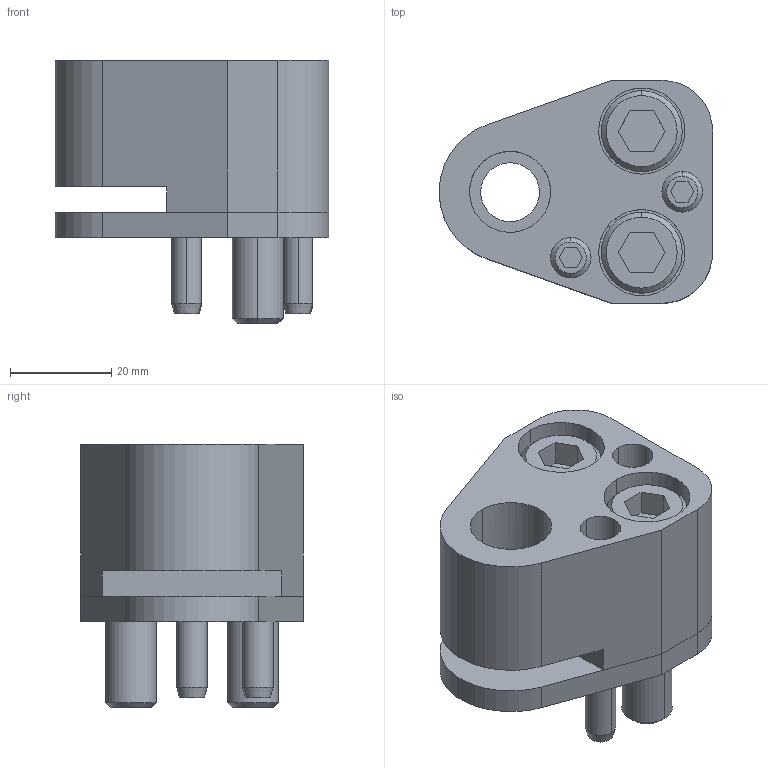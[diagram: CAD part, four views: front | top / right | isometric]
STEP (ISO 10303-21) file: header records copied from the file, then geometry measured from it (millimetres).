
FILE_DESCRIPTION(/* description */ (''),/* implementation_level */ '2;1');
FILE_NAME(/* name */ '3d_cp-fd16_03590_r00.stp',/* time_stamp */ '2011-01-10T14:16:29+09:00',/* author */ ('MISUMI'),/* organization */ (''),/* preprocessor_version */ 'ST-DEVELOPER v11',/* originating_system */ 'UGS - NX 5.0',/* authorisation */ '');
FILE_SCHEMA (('CONFIG_CONTROL_DESIGN'));
Length unit declared in the file: millimetre
Products named in the file (1): 3d_cp-fd16_03590_r00
Bounding box: 53.95 x 44 x 52 mm (x, y, z)
Volume: 56536.7 mm3; surface area: 23883.2 mm2
Topology: 8 solids, 8 shells, 154 faces, 352 edges, 227 vertices
Faces by surface type: plane 68, cylinder 60, cone 26
Entity records: 4516 total; most frequent: DIRECTION 802, CARTESIAN_POINT 793, ORIENTED_EDGE 704, EDGE_CURVE 352, AXIS2_PLACEMENT_3D 302, VERTEX_POINT 227, LINE 198, VECTOR 198
